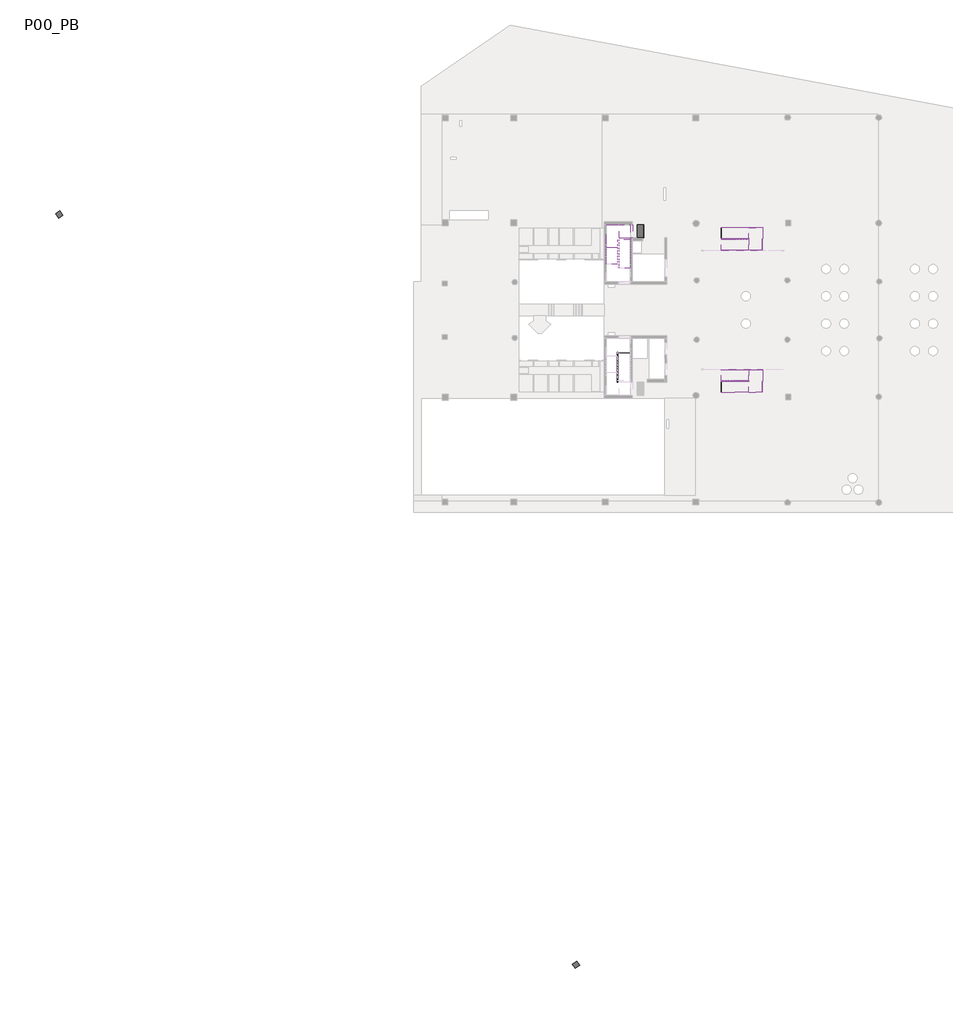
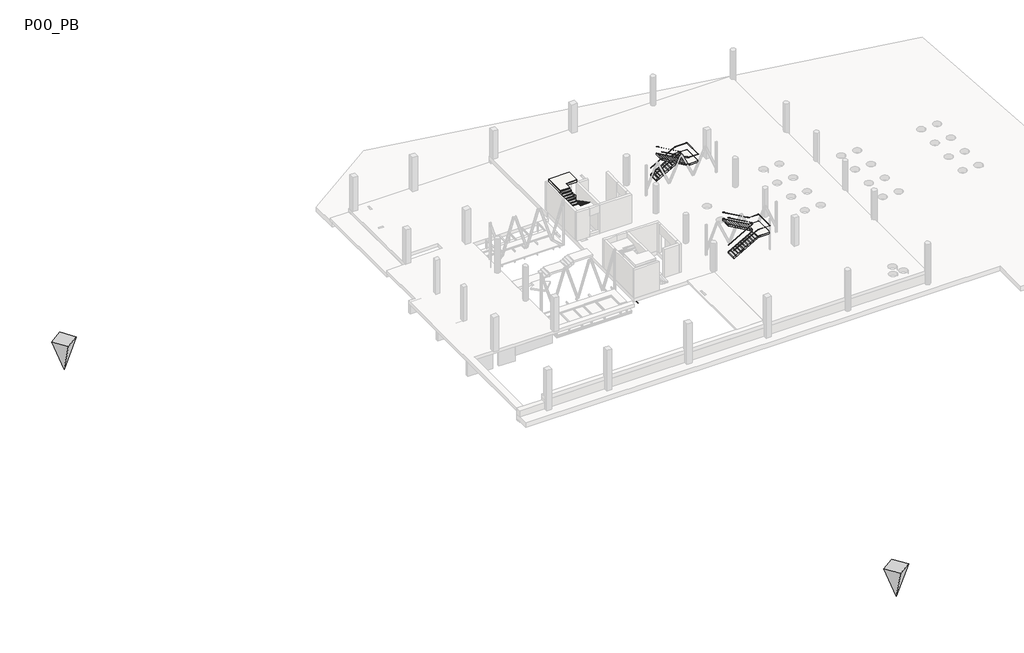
# One storey, part 7 of 7: 16 members, 7 stair flights, 5 railings, 4 slabs, 2 proxies.
"""IFC4 building model written with IfcOpenShell, lengths in millimetres."""

from ifc_helpers import new_model, si_unit, frame, origin, place, context, project, spatial, polyline, outline, extrude, faceted_brep, transform, mapped, element, save
from components import pr1_8635f188, railing_900mm_pipe_top_rail_20590dda, railing_900mm_pipe_top_rail_d99c33f4, railing_900mm_pipe_top_rail_784b6d44, railing_900mm_pipe_top_rail_96baf40c, railing_900mm_pipe_top_rail_08d98103, slab_d3fe248f, slab_97ac4ff6, metal_steps_w_10mm_tread_10mm_nosing_b8507e4e, metal_steps_w_10mm_tread_10mm_nosing_b2a2cf57, metal_steps_w_10mm_tread_10mm_nosing_9669a153, metal_steps_w_10mm_tread_10mm_nosing_cab76adb

model = new_model("IFC4")

# Units and contexts
model_context = context("Model", 3, world=origin())
ifc_project = project(units=[si_unit("LENGTHUNIT", "METRE", prefix="MILLI")], contexts=[model_context])

# Site, building, storey
site = spatial("IfcSite", under=ifc_project)
building = spatial("IfcBuilding", under=site)
storey = spatial("IfcBuildingStorey", under=building, Name="P00_PB", Elevation=6330.0)

# Proxies
placement = place(None, origin())
pr1_shape = pr1_8635f188(model_context)
element("IfcBuildingElementProxy", 1, Name="Punt_de_Referència : PR1", ObjectType="Punt_de_Referència : PR1", at=placement, inside=storey, context=model_context, shape_type="MappedRepresentation", body=[
    mapped(pr1_shape, transform((-16739.6780393, -67377.9131413, 6380.0), x_axis=(0.567142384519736, -0.8236197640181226, 0.0), y_axis=(0.8236197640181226, 0.567142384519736, 0.0), z_axis=(0.0, 0.0, 1.0))),
])
element("IfcBuildingElementProxy", 2, Name="Punt_de_Referència : PR2", ObjectType="Punt_de_Referència : PR2", at=placement, inside=storey, context=model_context, shape_type="MappedRepresentation", body=[
    mapped(pr1_shape, transform((-73453.9164913, 14984.0632605, 6380.0), x_axis=(0.5671423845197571, -0.8236197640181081, 0.0), y_axis=(0.8236197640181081, 0.5671423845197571, 0.0), z_axis=(0.0, 0.0, 1.0))),
])

# Members
element("IfcMember", 3, ObjectType="Stringer-Paint-10mm_Width-200mm_Height", at=placement, inside=storey, context=model_context, shape_type="SweptSolid", body=[
    extrude(outline(polyline([(7695.593333, -801.4958562), (7510.0, -801.4958562), (7510.0, -723.2895325), (9164.4282252, 2188.5041438), (9385.0, 2188.5041438), (9385.0, 2171.8598778), (7695.593333, -801.4958562)])), frame((0.0, -3354.3473686, 0.0), z_axis=(0.0, 1.0, 0.0), x_axis=(0.0, 0.0, 1.0)), (0.0, 0.0, 1.0), 10.0),
])
element("IfcMember", 4, ObjectType="Stringer-Paint-10mm_Width-200mm_Height", at=placement, inside=storey, context=model_context, shape_type="SweptSolid", body=[
    extrude(outline(polyline([(7695.593333, -801.4958562), (7510.0, -801.4958562), (7510.0, -723.2895325), (9185.0, 2224.7104675), (9385.0, 2171.8598778), (7695.593333, -801.4958562)])), frame((0.0, -4554.3473686, 0.0), z_axis=(0.0, 1.0, 0.0), x_axis=(0.0, 0.0, 1.0)), (0.0, 0.0, 1.0), 10.0),
])
element("IfcMember", 5, ObjectType="Stringer-Paint-10mm_Width-200mm_Height", at=placement, inside=storey, context=model_context, shape_type="SweptSolid", body=[
    extrude(outline(polyline([(9340.5645888, 2198.5041438), (9570.593333, 2198.5041438), (11275.1387875, -801.4958562), (11045.1100433, -801.4958562), (9340.5645888, 2198.5041438)])), frame((0.0, -3284.8316761, 0.0), z_axis=(0.0, 1.0, 0.0), x_axis=(0.0, 0.0, 1.0)), (0.0, 0.0, 1.0), 10.0),
])
element("IfcMember", 6, ObjectType="Stringer-Paint-10mm_Width-200mm_Height", at=placement, inside=storey, context=model_context, shape_type="SweptSolid", body=[
    extrude(outline(polyline([(9185.0, 2472.2978201), (9385.0, 2525.1484098), (11275.1387875, -801.4958562), (11045.1100433, -801.4958562), (9185.0, 2472.2978201)])), frame((0.0, -2084.8316761, 0.0), z_axis=(0.0, 1.0, 0.0), x_axis=(0.0, 0.0, 1.0)), (0.0, 0.0, 1.0), 10.0),
])
element("IfcMember", 7, ObjectType="Stringer-Paint-10mm_Width-200mm_Height", at=placement, inside=storey, context=model_context, shape_type="SweptSolid", body=[
    extrude(outline(polyline([(2188.5041438, -3284.8316761), (2198.5041438, -3284.8316761), (2198.5041438, -3354.3473686), (2188.5041438, -3354.3473686), (2188.5041438, -3284.8316761)])), frame((0.0, 0.0, 9185.0), z_axis=(0.0, 0.0, 1.0), x_axis=(1.0, 0.0, 0.0)), (0.0, 0.0, 1.0), 200.0),
])
element("IfcMember", 8, ObjectType="Stringer-Paint-10mm_Width-200mm_Height", at=placement, inside=storey, context=model_context, shape_type="Brep", body=[
    faceted_brep([(2171.8598778, -4544.3473686, 9385.0), (2171.8598778, -4554.3473686, 9385.0), (3758.5041438, -4554.3473686, 9385.0), (3748.5041438, -4544.3473686, 9385.0), (2224.7104675, -4544.3473686, 9185.0), (3748.5041438, -4544.3473686, 9185.0), (2224.7104675, -4554.3473686, 9185.0), (3758.5041438, -4554.3473686, 9185.0)], [[[0, 1, 2, 3]], [[4, 0, 3, 5]], [[6, 4, 5, 7]], [[1, 6, 7, 2]], [[1, 0, 4, 6]], [[2, 7, 5, 3]]]),
])
element("IfcMember", 9, ObjectType="Stringer-Paint-10mm_Width-200mm_Height", at=placement, inside=storey, context=model_context, shape_type="SweptSolid", body=[
    extrude(outline(polyline([(3758.5041438, -4554.3473686), (3748.5041438, -4544.3473686), (3748.5041438, -2084.8316761), (3758.5041438, -2074.8316761), (3758.5041438, -4554.3473686)])), frame((0.0, 0.0, 9185.0), z_axis=(0.0, 0.0, 1.0), x_axis=(1.0, 0.0, 0.0)), (0.0, 0.0, 1.0), 200.0),
])
element("IfcMember", 10, ObjectType="Stringer-Paint-10mm_Width-200mm_Height", at=placement, inside=storey, context=model_context, shape_type="Brep", body=[
    faceted_brep([(3748.5041438, -2084.8316761, 9385.0), (3758.5041438, -2074.8316761, 9385.0), (2525.1484098, -2074.8316761, 9385.0), (2525.1484098, -2084.8316761, 9385.0), (3748.5041438, -2084.8316761, 9185.0), (2472.2978201, -2084.8316761, 9185.0), (3758.5041438, -2074.8316761, 9185.0), (2472.2978201, -2074.8316761, 9185.0)], [[[0, 1, 2, 3]], [[4, 0, 3, 5]], [[6, 4, 5, 7]], [[1, 6, 7, 2]], [[1, 0, 4, 6]], [[2, 7, 5, 3]]]),
])
element("IfcMember", 11, ObjectType="Stringer-Paint-10mm_Width-200mm_Height", at=placement, inside=storey, context=model_context, shape_type="SweptSolid", body=[
    extrude(outline(polyline([(7695.593333, -801.4958562), (7510.0, -801.4958562), (7510.0, -723.2895325), (9164.4282252, 2188.5041438), (9385.0, 2188.5041438), (9385.0, 2171.8598778), (7695.593333, -801.4958562)])), frame((0.0, 12324.1395051, 0.0), z_axis=(0.0, 1.0, 0.0), x_axis=(0.0, 0.0, 1.0)), (0.0, 0.0, 1.0), 10.0),
])
element("IfcMember", 12, ObjectType="Stringer-Paint-10mm_Width-200mm_Height", at=placement, inside=storey, context=model_context, shape_type="SweptSolid", body=[
    extrude(outline(polyline([(7695.593333, -801.4958562), (7510.0, -801.4958562), (7510.0, -723.2895325), (9185.0, 2224.7104675), (9385.0, 2171.8598778), (7695.593333, -801.4958562)])), frame((0.0, 13524.1395051, 0.0), z_axis=(0.0, 1.0, 0.0), x_axis=(0.0, 0.0, 1.0)), (0.0, 0.0, 1.0), 10.0),
])
element("IfcMember", 13, ObjectType="Stringer-Paint-10mm_Width-200mm_Height", at=placement, inside=storey, context=model_context, shape_type="SweptSolid", body=[
    extrude(outline(polyline([(9340.5645888, 2198.5041438), (9570.593333, 2198.5041438), (11275.1387875, -801.4958562), (11045.1100433, -801.4958562), (9340.5645888, 2198.5041438)])), frame((0.0, 12254.6238126, 0.0), z_axis=(0.0, 1.0, 0.0), x_axis=(0.0, 0.0, 1.0)), (0.0, 0.0, 1.0), 10.0),
])
element("IfcMember", 14, ObjectType="Stringer-Paint-10mm_Width-200mm_Height", at=placement, inside=storey, context=model_context, shape_type="SweptSolid", body=[
    extrude(outline(polyline([(9185.0, 2472.2978201), (9385.0, 2525.1484098), (11275.1387875, -801.4958562), (11045.1100433, -801.4958562), (9185.0, 2472.2978201)])), frame((0.0, 11054.6238126, 0.0), z_axis=(0.0, 1.0, 0.0), x_axis=(0.0, 0.0, 1.0)), (0.0, 0.0, 1.0), 10.0),
])
element("IfcMember", 15, ObjectType="Stringer-Paint-10mm_Width-200mm_Height", at=placement, inside=storey, context=model_context, shape_type="SweptSolid", body=[
    extrude(outline(polyline([(2188.5041438, 12334.1395051), (2198.5041438, 12334.1395051), (2198.5041438, 12264.6238126), (2188.5041438, 12264.6238126), (2188.5041438, 12334.1395051)])), frame((0.0, 0.0, 9185.0), z_axis=(0.0, 0.0, 1.0), x_axis=(1.0, 0.0, 0.0)), (0.0, 0.0, 1.0), 200.0),
])
element("IfcMember", 16, ObjectType="Stringer-Paint-10mm_Width-200mm_Height", at=placement, inside=storey, context=model_context, shape_type="Brep", body=[
    faceted_brep([(3748.5041438, 13524.1395051, 9385.0), (3758.5041438, 13534.1395051, 9385.0), (2171.8598778, 13534.1395051, 9385.0), (2171.8598778, 13524.1395051, 9385.0), (3748.5041438, 13524.1395051, 9185.0), (2224.7104675, 13524.1395051, 9185.0), (3758.5041438, 13534.1395051, 9185.0), (2224.7104675, 13534.1395051, 9185.0)], [[[0, 1, 2, 3]], [[4, 0, 3, 5]], [[6, 4, 5, 7]], [[1, 6, 7, 2]], [[1, 0, 4, 6]], [[2, 7, 5, 3]]]),
])
element("IfcMember", 17, ObjectType="Stringer-Paint-10mm_Width-200mm_Height", at=placement, inside=storey, context=model_context, shape_type="SweptSolid", body=[
    extrude(outline(polyline([(3758.5041438, 11054.6238126), (3748.5041438, 11064.6238126), (3748.5041438, 13524.1395051), (3758.5041438, 13534.1395051), (3758.5041438, 11054.6238126)])), frame((0.0, 0.0, 9185.0), z_axis=(0.0, 0.0, 1.0), x_axis=(1.0, 0.0, 0.0)), (0.0, 0.0, 1.0), 200.0),
])
element("IfcMember", 18, ObjectType="Stringer-Paint-10mm_Width-200mm_Height", at=placement, inside=storey, context=model_context, shape_type="Brep", body=[
    faceted_brep([(2525.1484098, 11064.6238126, 9385.0), (2525.1484098, 11054.6238126, 9385.0), (3758.5041438, 11054.6238126, 9385.0), (3748.5041438, 11064.6238126, 9385.0), (2472.2978201, 11064.6238126, 9185.0), (3748.5041438, 11064.6238126, 9185.0), (2472.2978201, 11054.6238126, 9185.0), (3758.5041438, 11054.6238126, 9185.0)], [[[0, 1, 2, 3]], [[4, 0, 3, 5]], [[6, 4, 5, 7]], [[1, 6, 7, 2]], [[1, 0, 4, 6]], [[2, 7, 5, 3]]]),
])

# Railings
railing_900mm_pipe_top_rail_shape = railing_900mm_pipe_top_rail_20590dda(model_context)
element("IfcRailing", 19, ObjectType="900mm_Pipe_Top Rail", at=placement, inside=storey, context=model_context, shape_type="MappedRepresentation", body=[
    mapped(railing_900mm_pipe_top_rail_shape, transform((0.0, 0.0, 0.0), x_axis=(1.0, 0.0, 0.0), y_axis=(0.0, 1.0, 0.0), z_axis=(0.0, 0.0, 1.0))),
])
railing_900mm_pipe_top_rail_2_shape = railing_900mm_pipe_top_rail_d99c33f4(model_context)
element("IfcRailing", 20, ObjectType="900mm_Pipe_Top Rail", at=placement, inside=storey, context=model_context, shape_type="MappedRepresentation", body=[
    mapped(railing_900mm_pipe_top_rail_2_shape, transform((0.0, 0.0, 0.0), x_axis=(1.0, 0.0, 0.0), y_axis=(0.0, 1.0, 0.0), z_axis=(0.0, 0.0, 1.0))),
])
railing_900mm_pipe_top_rail_3_shape = railing_900mm_pipe_top_rail_784b6d44(model_context)
element("IfcRailing", 21, ObjectType="900mm_Pipe_Top Rail", at=placement, inside=storey, context=model_context, shape_type="MappedRepresentation", body=[
    mapped(railing_900mm_pipe_top_rail_3_shape, transform((0.0, 0.0, 0.0), x_axis=(1.0, 0.0, 0.0), y_axis=(0.0, 1.0, 0.0), z_axis=(0.0, 0.0, 1.0))),
])
railing_900mm_pipe_top_rail_4_shape = railing_900mm_pipe_top_rail_96baf40c(model_context)
element("IfcRailing", 22, ObjectType="900mm_Pipe_Top Rail", at=placement, inside=storey, context=model_context, shape_type="MappedRepresentation", body=[
    mapped(railing_900mm_pipe_top_rail_4_shape, transform((0.0, 0.0, 0.0), x_axis=(1.0, 0.0, 0.0), y_axis=(0.0, 1.0, 0.0), z_axis=(0.0, 0.0, 1.0))),
])
railing_900mm_pipe_top_rail_5_shape = railing_900mm_pipe_top_rail_08d98103(model_context)
element("IfcRailing", 23, ObjectType="900mm_Pipe_Top Rail", at=placement, inside=storey, context=model_context, shape_type="MappedRepresentation", body=[
    mapped(railing_900mm_pipe_top_rail_5_shape, transform((0.0, 0.0, 0.0), x_axis=(1.0, 0.0, 0.0), y_axis=(0.0, 1.0, 0.0), z_axis=(0.0, 0.0, 1.0))),
])

# Slabs
slab_shape = slab_d3fe248f(model_context)
element("IfcSlab", 24, ObjectType="Non-Monolitic_Landing", at=placement, inside=storey, context=model_context, shape_type="MappedRepresentation", body=[
    mapped(slab_shape, transform((0.0, 0.0, 0.0), x_axis=(1.0, 0.0, 0.0), y_axis=(0.0, 1.0, 0.0), z_axis=(0.0, 0.0, 1.0))),
])
slab_2_shape = slab_97ac4ff6(model_context)
element("IfcSlab", 25, ObjectType="Non-Monolitic_Landing", at=placement, inside=storey, context=model_context, shape_type="MappedRepresentation", body=[
    mapped(slab_2_shape, transform((0.0, 0.0, 0.0), x_axis=(1.0, 0.0, 0.0), y_axis=(0.0, 1.0, 0.0), z_axis=(0.0, 0.0, 1.0))),
])
element("IfcSlab", 26, ObjectType="250mm_Thickness", at=placement, inside=storey, context=model_context, shape_type="SolidModel", body=[
    faceted_brep([(-10540.7914923, 12414.8934136, 8241.25), (-10540.7914923, 13864.8960687, 8241.25), (-10901.9938574, 13864.8960687, 8241.25), (-11990.2146087, 13864.8960687, 8241.25), (-11990.2146087, 12414.8934136, 8241.25), (-11990.2146087, 12364.8934136, 8241.25), (-10790.2146087, 12364.8934136, 8241.25), (-10790.2146087, 12414.8934136, 8241.25), (-10540.7914923, 12414.8934136, 8085.0), (-10540.7914923, 12414.8934136, 7803.1237682), (-10540.7914923, 13864.8960687, 7803.1237682), (-10540.7914923, 13864.8960687, 8085.0), (-10901.9938574, 13864.8960687, 7991.25), (-11990.2146087, 13864.8960687, 7991.25), (-11990.2146087, 12414.8934136, 7991.25), (-11990.2146087, 12364.8934136, 7991.25), (-10790.2146087, 12364.8934136, 7991.25), (-10790.2146087, 12414.8934136, 7991.25), (-10901.9938574, 12414.8934136, 7991.25)], [[[0, 1, 2, 3, 4, 5, 6, 7]], [[1, 0, 8, 9, 10, 11]], [[1, 11, 10, 12, 13, 3, 2]], [[4, 3, 13, 14]], [[5, 4, 14, 15]], [[6, 5, 15, 16]], [[7, 6, 16, 17]], [[0, 7, 17, 18, 9, 8]], [[12, 18, 17, 16, 15, 14, 13]], [[9, 18, 12, 10]]]),
    extrude(outline(polyline([(-10490.7914923, 12414.8934136), (-10790.2146087, 12414.8934136), (-11990.2146087, 12414.8934136), (-11990.2146087, 13864.8960687), (-10490.7914923, 13864.8960687), (-10490.7914923, 12414.8934136)])), frame((0.0, 0.0, 8241.25), z_axis=(0.0, 0.0, 1.0), x_axis=(1.0, 0.0, 0.0)), (0.0, 0.0, 1.0), 50.0),
])
element("IfcSlab", 27, ObjectType="250mm_Thickness", at=placement, inside=storey, context=model_context, shape_type="SolidModel", body=[
    faceted_brep([(-13390.3216429, 11364.8960673, 11210.0), (-12190.3216429, 11364.8960673, 11210.0), (-12190.3216429, 11726.0984324, 11210.0), (-12190.3216429, 12214.8932827, 11210.0), (-10790.2146087, 12214.8932827, 11210.0), (-10790.2146087, 13864.8960687, 11210.0), (-13390.3216429, 13864.8960687, 11210.0), (-13390.3216429, 11726.0984324, 11210.0), (-12190.3216429, 11364.8960673, 11053.75), (-12190.3216429, 11364.8960673, 10771.8737682), (-12190.3216429, 11726.0984324, 10960.0), (-12190.3216429, 12214.8932827, 10960.0), (-10790.2146087, 12214.8932827, 10960.0), (-10790.2146087, 13864.8960687, 10960.0), (-13390.3216429, 13864.8960687, 10960.0), (-13390.3216429, 11364.8960673, 10771.8737682), (-13390.3216429, 11364.8960673, 11053.75), (-13390.3216429, 11726.0984324, 10960.0)], [[[0, 1, 2, 3, 4, 5, 6, 7]], [[1, 8, 9, 10, 11, 3, 2]], [[4, 3, 11, 12]], [[5, 4, 12, 13]], [[6, 5, 13, 14]], [[15, 16, 0, 7, 6, 14, 17]], [[10, 17, 14, 13, 12, 11]], [[1, 0, 16, 15, 9, 8]], [[17, 10, 9, 15]]]),
    extrude(outline(polyline([(-13390.3216429, 11314.8960673), (-13390.3216429, 13864.8960687), (-10790.2146087, 13864.8960687), (-10790.2146087, 12214.8932827), (-12190.3216429, 12214.8932827), (-12190.3216429, 11314.8960673), (-13390.3216429, 11314.8960673)])), frame((0.0, 0.0, 11210.0), z_axis=(0.0, 0.0, 1.0), x_axis=(1.0, 0.0, 0.0)), (0.0, 0.0, 1.0), 50.0),
])

# Stair flights
element("IfcStairFlight", 28, ObjectType="250mm Depth", at=placement, inside=storey, context=model_context, shape_type="SolidModel", body=[
    faceted_brep([(-9640.7914923, 12414.8934136, 7616.25), (-9340.7914923, 12414.8934136, 7616.25), (-9340.7914923, 13864.8960687, 7616.25), (-9640.7914923, 13864.8960687, 7616.25), (-9640.7914923, 12414.8934136, 7510.0), (-9340.7914923, 12414.8934136, 7510.0), (-9340.7914923, 13864.8960687, 7510.0), (-9640.7914923, 13864.8960687, 7510.0), (-9940.7914923, 12414.8934136, 7772.5), (-9640.7914923, 12414.8934136, 7772.5), (-9640.7914923, 13864.8960687, 7772.5), (-9940.7914923, 13864.8960687, 7772.5), (-9940.7914923, 12414.8934136, 7510.0), (-9940.7914923, 13864.8960687, 7510.0), (-10240.7914923, 12414.8934136, 7928.75), (-9940.7914923, 12414.8934136, 7928.75), (-9940.7914923, 13864.8960687, 7928.75), (-10240.7914923, 13864.8960687, 7928.75), (-10240.7914923, 12414.8934136, 7646.8737682), (-9977.9938574, 12414.8934136, 7510.0), (-9977.9938574, 13864.8960687, 7510.0), (-10240.7914923, 13864.8960687, 7646.8737682), (-10540.7914923, 12414.8934136, 8085.0), (-10240.7914923, 12414.8934136, 8085.0), (-10240.7914923, 13864.8960687, 8085.0), (-10490.7914923, 13864.8960687, 8085.0), (-10540.7914923, 13864.8960687, 8085.0), (-10540.7914923, 12414.8934136, 7803.1237682), (-10490.7914923, 13864.8960687, 7777.0821015), (-10540.7914923, 13864.8960687, 7803.1237682)], [[[0, 1, 2, 3]], [[1, 0, 4, 5]], [[2, 1, 5, 6]], [[3, 2, 6, 7]], [[8, 9, 10, 11]], [[4, 0, 9, 8, 12]], [[0, 3, 10, 9]], [[3, 7, 13, 11, 10]], [[14, 15, 16, 17]], [[12, 8, 15, 14, 18, 19]], [[8, 11, 16, 15]], [[11, 13, 20, 21, 17, 16]], [[22, 23, 24, 25, 26]], [[23, 22, 27, 18, 14]], [[14, 17, 24, 23]], [[24, 17, 21, 28, 29, 26, 25]], [[22, 26, 29, 27]], [[5, 4, 12, 19, 20, 13, 7, 6]], [[20, 19, 18, 27, 29, 28, 21]]]),
    extrude(outline(polyline([(-9340.7914923, 13864.8960687), (-9290.7914923, 13864.8960687), (-9290.7914923, 12414.8934136), (-9340.7914923, 12414.8934136), (-9340.7914923, 13864.8960687)])), frame((0.0, 0.0, 7510.0), z_axis=(0.0, 0.0, 1.0), x_axis=(1.0, 0.0, 0.0)), (0.0, 0.0, 1.0), 106.25),
    extrude(outline(polyline([(-9590.7914923, 12414.8934136), (-9590.7914923, 13864.8960687), (-9290.7914923, 13864.8960687), (-9290.7914923, 12414.8934136), (-9590.7914923, 12414.8934136)])), frame((0.0, 0.0, 7616.25), z_axis=(0.0, 0.0, 1.0), x_axis=(1.0, 0.0, 0.0)), (0.0, 0.0, 1.0), 50.0),
    extrude(outline(polyline([(-9640.7914923, 13864.8960687), (-9590.7914923, 13864.8960687), (-9590.7914923, 12414.8934136), (-9640.7914923, 12414.8934136), (-9640.7914923, 13864.8960687)])), frame((0.0, 0.0, 7616.25), z_axis=(0.0, 0.0, 1.0), x_axis=(1.0, 0.0, 0.0)), (0.0, 0.0, 1.0), 156.25),
    extrude(outline(polyline([(-9890.7914923, 12414.8934136), (-9890.7914923, 13864.8960687), (-9590.7914923, 13864.8960687), (-9590.7914923, 12414.8934136), (-9890.7914923, 12414.8934136)])), frame((0.0, 0.0, 7772.5), z_axis=(0.0, 0.0, 1.0), x_axis=(1.0, 0.0, 0.0)), (0.0, 0.0, 1.0), 50.0),
    extrude(outline(polyline([(-9940.7914923, 13864.8960687), (-9890.7914923, 13864.8960687), (-9890.7914923, 12414.8934136), (-9940.7914923, 12414.8934136), (-9940.7914923, 13864.8960687)])), frame((0.0, 0.0, 7772.5), z_axis=(0.0, 0.0, 1.0), x_axis=(1.0, 0.0, 0.0)), (0.0, 0.0, 1.0), 156.25),
    extrude(outline(polyline([(-10190.7914923, 12414.8934136), (-10190.7914923, 13864.8960687), (-9890.7914923, 13864.8960687), (-9890.7914923, 12414.8934136), (-10190.7914923, 12414.8934136)])), frame((0.0, 0.0, 7928.75), z_axis=(0.0, 0.0, 1.0), x_axis=(1.0, 0.0, 0.0)), (0.0, 0.0, 1.0), 50.0),
    extrude(outline(polyline([(-10240.7914923, 13864.8960687), (-10190.7914923, 13864.8960687), (-10190.7914923, 12414.8934136), (-10240.7914923, 12414.8934136), (-10240.7914923, 13864.8960687)])), frame((0.0, 0.0, 7928.75), z_axis=(0.0, 0.0, 1.0), x_axis=(1.0, 0.0, 0.0)), (0.0, 0.0, 1.0), 156.25),
    extrude(outline(polyline([(-10540.7914923, 13864.8960687), (-10490.7914923, 13864.8960687), (-10490.7914923, 12414.8934136), (-10540.7914923, 12414.8934136), (-10540.7914923, 13864.8960687)])), frame((0.0, 0.0, 8085.0), z_axis=(0.0, 0.0, 1.0), x_axis=(1.0, 0.0, 0.0)), (0.0, 0.0, 1.0), 156.25),
    extrude(outline(polyline([(-10490.7914923, 12414.8934136), (-10490.7914923, 13864.8960687), (-10190.7914923, 13864.8960687), (-10190.7914923, 12414.8934136), (-10490.7914923, 12414.8934136)])), frame((0.0, 0.0, 8085.0), z_axis=(0.0, 0.0, 1.0), x_axis=(1.0, 0.0, 0.0)), (0.0, 0.0, 1.0), 50.0),
])
element("IfcStairFlight", 29, ObjectType="250mm Depth", at=placement, inside=storey, context=model_context, shape_type="SolidModel", body=[
    faceted_brep([(-10790.2146087, 12364.8934136, 8397.5), (-11990.2146087, 12364.8934136, 8397.5), (-11990.2146087, 12303.6910485, 8397.5), (-11990.2146087, 12064.8934136, 8397.5), (-10790.2146087, 12064.8934136, 8397.5), (-10790.2146087, 12303.6910485, 8397.5), (-10790.2146087, 12064.8934136, 8115.6237682), (-10790.2146087, 12303.6910485, 7991.25), (-10790.2146087, 12364.8934136, 7991.25), (-10790.2146087, 12364.8934136, 8241.25), (-11990.2146087, 12364.8934136, 7991.25), (-11990.2146087, 12364.8934136, 8241.25), (-11990.2146087, 12303.6910485, 7991.25), (-11990.2146087, 12064.8934136, 8115.6237682), (-10790.2146087, 11764.8934136, 8553.75), (-10790.2146087, 12064.8934136, 8553.75), (-11990.2146087, 12064.8934136, 8553.75), (-11990.2146087, 11764.8934136, 8553.75), (-10790.2146087, 11764.8934136, 8271.8737682), (-11990.2146087, 11764.8934136, 8271.8737682), (-10790.2146087, 11464.8934136, 8710.0), (-10790.2146087, 11764.8934136, 8710.0), (-11990.2146087, 11764.8934136, 8710.0), (-11990.2146087, 11464.8934136, 8710.0), (-10790.2146087, 11464.8934136, 8428.1237682), (-11990.2146087, 11464.8934136, 8428.1237682), (-10790.2146087, 11164.8934136, 8866.25), (-10790.2146087, 11464.8934136, 8866.25), (-11990.2146087, 11464.8934136, 8866.25), (-11990.2146087, 11164.8934136, 8866.25), (-10790.2146087, 11164.8934136, 8584.3737682), (-11990.2146087, 11164.8934136, 8584.3737682), (-10790.2146087, 10864.8934136, 9022.5), (-10790.2146087, 11164.8934136, 9022.5), (-11990.2146087, 11164.8934136, 9022.5), (-11990.2146087, 10864.8934136, 9022.5), (-10790.2146087, 10864.8934136, 8740.6237682), (-11990.2146087, 10864.8934136, 8740.6237682), (-10790.2146087, 10564.8934136, 9178.75), (-10790.2146087, 10864.8934136, 9178.75), (-11990.2146087, 10864.8934136, 9178.75), (-11990.2146087, 10564.8934136, 9178.75), (-10790.2146087, 10564.8934136, 8896.8737682), (-11990.2146087, 10564.8934136, 8896.8737682), (-10790.2146087, 10264.8934136, 9335.0), (-10790.2146087, 10564.8934136, 9335.0), (-11990.2146087, 10564.8934136, 9335.0), (-11990.2146087, 10264.8934136, 9335.0), (-10790.2146087, 10264.8934136, 9053.1237682), (-11990.2146087, 10264.8934136, 9053.1237682), (-10790.2146087, 9964.8934136, 9491.25), (-10790.2146087, 10264.8934136, 9491.25), (-11990.2146087, 10264.8934136, 9491.25), (-11990.2146087, 9964.8934136, 9491.25), (-10790.2146087, 9964.8934136, 9209.3737682), (-11990.2146087, 9964.8934136, 9209.3737682), (-10790.2146087, 9664.8934136, 9647.5), (-10790.2146087, 9964.8934136, 9647.5), (-11990.2146087, 9964.8934136, 9647.5), (-11990.2146087, 9664.8934136, 9647.5), (-10790.2146087, 9664.8934136, 9365.6237682), (-11990.2146087, 9664.8934136, 9365.6237682), (-10790.2146087, 9364.8934136, 9803.75), (-10790.2146087, 9664.8934136, 9803.75), (-11990.2146087, 9664.8934136, 9803.75), (-11990.2146087, 9364.8934136, 9803.75), (-10790.2146087, 9364.8934136, 9521.8737682), (-11990.2146087, 9364.8934136, 9521.8737682), (-10790.2146087, 9364.8934136, 9960.0), (-11990.2146087, 9364.8934136, 9960.0), (-11990.2146087, 9114.8934136, 9960.0), (-11990.2146087, 9064.8934136, 9960.0), (-10790.2146087, 9064.8934136, 9960.0), (-10790.2146087, 9114.8934136, 9960.0), (-10790.2146087, 9064.8934136, 9678.1237682), (-10790.2146087, 9114.8934136, 9652.0821015), (-11990.2146087, 9064.8934136, 9678.1237682), (-11990.2146087, 9064.8934136, 9866.25)], [[[0, 1, 2, 3, 4, 5]], [[4, 6, 7, 8, 9, 0, 5]], [[1, 0, 9, 8, 10, 11]], [[1, 11, 10, 12, 13, 3, 2]], [[14, 15, 16, 17]], [[15, 14, 18, 6, 4]], [[16, 15, 4, 3]], [[17, 16, 3, 13, 19]], [[20, 21, 22, 23]], [[21, 20, 24, 18, 14]], [[22, 21, 14, 17]], [[23, 22, 17, 19, 25]], [[26, 27, 28, 29]], [[27, 26, 30, 24, 20]], [[28, 27, 20, 23]], [[29, 28, 23, 25, 31]], [[32, 33, 34, 35]], [[33, 32, 36, 30, 26]], [[34, 33, 26, 29]], [[35, 34, 29, 31, 37]], [[38, 39, 40, 41]], [[39, 38, 42, 36, 32]], [[40, 39, 32, 35]], [[41, 40, 35, 37, 43]], [[44, 45, 46, 47]], [[45, 44, 48, 42, 38]], [[46, 45, 38, 41]], [[47, 46, 41, 43, 49]], [[50, 51, 52, 53]], [[51, 50, 54, 48, 44]], [[52, 51, 44, 47]], [[53, 52, 47, 49, 55]], [[56, 57, 58, 59]], [[57, 56, 60, 54, 50]], [[58, 57, 50, 53]], [[59, 58, 53, 55, 61]], [[62, 63, 64, 65]], [[63, 62, 66, 60, 56]], [[64, 63, 56, 59]], [[65, 64, 59, 61, 67]], [[68, 69, 70, 71, 72, 73]], [[62, 68, 73, 72, 74, 75, 66]], [[69, 68, 62, 65]], [[69, 65, 67, 76, 77, 71, 70]], [[72, 71, 77, 76, 74]], [[12, 7, 6, 18, 24, 30, 36, 42, 48, 54, 60, 66, 75, 74, 76, 67, 61, 55, 49, 43, 37, 31, 25, 19, 13]], [[7, 12, 10, 8]]]),
    extrude(outline(polyline([(-11990.2146087, 12364.8934136), (-11990.2146087, 12414.8934136), (-10790.2146087, 12414.8934136), (-10790.2146087, 12364.8934136), (-11990.2146087, 12364.8934136)])), frame((0.0, 0.0, 8241.25), z_axis=(0.0, 0.0, 1.0), x_axis=(1.0, 0.0, 0.0)), (0.0, 0.0, 1.0), 156.25),
    extrude(outline(polyline([(-10790.2146087, 12114.8934136), (-11990.2146087, 12114.8934136), (-11990.2146087, 12414.8934136), (-10790.2146087, 12414.8934136), (-10790.2146087, 12114.8934136)])), frame((0.0, 0.0, 8397.5), z_axis=(0.0, 0.0, 1.0), x_axis=(1.0, 0.0, 0.0)), (0.0, 0.0, 1.0), 50.0),
    extrude(outline(polyline([(-11990.2146087, 12064.8934136), (-11990.2146087, 12114.8934136), (-10790.2146087, 12114.8934136), (-10790.2146087, 12064.8934136), (-11990.2146087, 12064.8934136)])), frame((0.0, 0.0, 8397.5), z_axis=(0.0, 0.0, 1.0), x_axis=(1.0, 0.0, 0.0)), (0.0, 0.0, 1.0), 156.25),
    extrude(outline(polyline([(-10790.2146087, 11814.8934136), (-11990.2146087, 11814.8934136), (-11990.2146087, 12114.8934136), (-10790.2146087, 12114.8934136), (-10790.2146087, 11814.8934136)])), frame((0.0, 0.0, 8553.75), z_axis=(0.0, 0.0, 1.0), x_axis=(1.0, 0.0, 0.0)), (0.0, 0.0, 1.0), 50.0),
    extrude(outline(polyline([(-11990.2146087, 11764.8934136), (-11990.2146087, 11814.8934136), (-10790.2146087, 11814.8934136), (-10790.2146087, 11764.8934136), (-11990.2146087, 11764.8934136)])), frame((0.0, 0.0, 8553.75), z_axis=(0.0, 0.0, 1.0), x_axis=(1.0, 0.0, 0.0)), (0.0, 0.0, 1.0), 156.25),
    extrude(outline(polyline([(-10790.2146087, 11514.8934136), (-11990.2146087, 11514.8934136), (-11990.2146087, 11814.8934136), (-10790.2146087, 11814.8934136), (-10790.2146087, 11514.8934136)])), frame((0.0, 0.0, 8710.0), z_axis=(0.0, 0.0, 1.0), x_axis=(1.0, 0.0, 0.0)), (0.0, 0.0, 1.0), 50.0),
    extrude(outline(polyline([(-11990.2146087, 11464.8934136), (-11990.2146087, 11514.8934136), (-10790.2146087, 11514.8934136), (-10790.2146087, 11464.8934136), (-11990.2146087, 11464.8934136)])), frame((0.0, 0.0, 8710.0), z_axis=(0.0, 0.0, 1.0), x_axis=(1.0, 0.0, 0.0)), (0.0, 0.0, 1.0), 156.25),
    extrude(outline(polyline([(-10790.2146087, 11214.8934136), (-11990.2146087, 11214.8934136), (-11990.2146087, 11514.8934136), (-10790.2146087, 11514.8934136), (-10790.2146087, 11214.8934136)])), frame((0.0, 0.0, 8866.25), z_axis=(0.0, 0.0, 1.0), x_axis=(1.0, 0.0, 0.0)), (0.0, 0.0, 1.0), 50.0),
    extrude(outline(polyline([(-11990.2146087, 11164.8934136), (-11990.2146087, 11214.8934136), (-10790.2146087, 11214.8934136), (-10790.2146087, 11164.8934136), (-11990.2146087, 11164.8934136)])), frame((0.0, 0.0, 8866.25), z_axis=(0.0, 0.0, 1.0), x_axis=(1.0, 0.0, 0.0)), (0.0, 0.0, 1.0), 156.25),
    extrude(outline(polyline([(-10790.2146087, 10914.8934136), (-11990.2146087, 10914.8934136), (-11990.2146087, 11214.8934136), (-10790.2146087, 11214.8934136), (-10790.2146087, 10914.8934136)])), frame((0.0, 0.0, 9022.5), z_axis=(0.0, 0.0, 1.0), x_axis=(1.0, 0.0, 0.0)), (0.0, 0.0, 1.0), 50.0),
    extrude(outline(polyline([(-11990.2146087, 10864.8934136), (-11990.2146087, 10914.8934136), (-10790.2146087, 10914.8934136), (-10790.2146087, 10864.8934136), (-11990.2146087, 10864.8934136)])), frame((0.0, 0.0, 9022.5), z_axis=(0.0, 0.0, 1.0), x_axis=(1.0, 0.0, 0.0)), (0.0, 0.0, 1.0), 156.25),
    extrude(outline(polyline([(-10790.2146087, 10614.8934136), (-11990.2146087, 10614.8934136), (-11990.2146087, 10914.8934136), (-10790.2146087, 10914.8934136), (-10790.2146087, 10614.8934136)])), frame((0.0, 0.0, 9178.75), z_axis=(0.0, 0.0, 1.0), x_axis=(1.0, 0.0, 0.0)), (0.0, 0.0, 1.0), 50.0),
    extrude(outline(polyline([(-11990.2146087, 10564.8934136), (-11990.2146087, 10614.8934136), (-10790.2146087, 10614.8934136), (-10790.2146087, 10564.8934136), (-11990.2146087, 10564.8934136)])), frame((0.0, 0.0, 9178.75), z_axis=(0.0, 0.0, 1.0), x_axis=(1.0, 0.0, 0.0)), (0.0, 0.0, 1.0), 156.25),
    extrude(outline(polyline([(-10790.2146087, 10314.8934136), (-11990.2146087, 10314.8934136), (-11990.2146087, 10614.8934136), (-10790.2146087, 10614.8934136), (-10790.2146087, 10314.8934136)])), frame((0.0, 0.0, 9335.0), z_axis=(0.0, 0.0, 1.0), x_axis=(1.0, 0.0, 0.0)), (0.0, 0.0, 1.0), 50.0),
    extrude(outline(polyline([(-11990.2146087, 10264.8934136), (-11990.2146087, 10314.8934136), (-10790.2146087, 10314.8934136), (-10790.2146087, 10264.8934136), (-11990.2146087, 10264.8934136)])), frame((0.0, 0.0, 9335.0), z_axis=(0.0, 0.0, 1.0), x_axis=(1.0, 0.0, 0.0)), (0.0, 0.0, 1.0), 156.25),
    extrude(outline(polyline([(-10790.2146087, 10014.8934136), (-11990.2146087, 10014.8934136), (-11990.2146087, 10314.8934136), (-10790.2146087, 10314.8934136), (-10790.2146087, 10014.8934136)])), frame((0.0, 0.0, 9491.25), z_axis=(0.0, 0.0, 1.0), x_axis=(1.0, 0.0, 0.0)), (0.0, 0.0, 1.0), 50.0),
    extrude(outline(polyline([(-11990.2146087, 9964.8934136), (-11990.2146087, 10014.8934136), (-10790.2146087, 10014.8934136), (-10790.2146087, 9964.8934136), (-11990.2146087, 9964.8934136)])), frame((0.0, 0.0, 9491.25), z_axis=(0.0, 0.0, 1.0), x_axis=(1.0, 0.0, 0.0)), (0.0, 0.0, 1.0), 156.25),
    extrude(outline(polyline([(-10790.2146087, 9714.8934136), (-11990.2146087, 9714.8934136), (-11990.2146087, 10014.8934136), (-10790.2146087, 10014.8934136), (-10790.2146087, 9714.8934136)])), frame((0.0, 0.0, 9647.5), z_axis=(0.0, 0.0, 1.0), x_axis=(1.0, 0.0, 0.0)), (0.0, 0.0, 1.0), 50.0),
    extrude(outline(polyline([(-11990.2146087, 9664.8934136), (-11990.2146087, 9714.8934136), (-10790.2146087, 9714.8934136), (-10790.2146087, 9664.8934136), (-11990.2146087, 9664.8934136)])), frame((0.0, 0.0, 9647.5), z_axis=(0.0, 0.0, 1.0), x_axis=(1.0, 0.0, 0.0)), (0.0, 0.0, 1.0), 156.25),
    extrude(outline(polyline([(-10790.2146087, 9414.8934136), (-11990.2146087, 9414.8934136), (-11990.2146087, 9714.8934136), (-10790.2146087, 9714.8934136), (-10790.2146087, 9414.8934136)])), frame((0.0, 0.0, 9803.75), z_axis=(0.0, 0.0, 1.0), x_axis=(1.0, 0.0, 0.0)), (0.0, 0.0, 1.0), 50.0),
    extrude(outline(polyline([(-11990.2146087, 9364.8934136), (-11990.2146087, 9414.8934136), (-10790.2146087, 9414.8934136), (-10790.2146087, 9364.8934136), (-11990.2146087, 9364.8934136)])), frame((0.0, 0.0, 9803.75), z_axis=(0.0, 0.0, 1.0), x_axis=(1.0, 0.0, 0.0)), (0.0, 0.0, 1.0), 156.25),
    extrude(outline(polyline([(-11990.2146087, 9064.8934136), (-11990.2146087, 9114.8934136), (-10790.2146087, 9114.8934136), (-10790.2146087, 9064.8934136), (-11990.2146087, 9064.8934136)])), frame((0.0, 0.0, 9960.0), z_axis=(0.0, 0.0, 1.0), x_axis=(1.0, 0.0, 0.0)), (0.0, 0.0, 1.0), 156.25),
    extrude(outline(polyline([(-10790.2146087, 9114.8934136), (-11990.2146087, 9114.8934136), (-11990.2146087, 9414.8934136), (-10790.2146087, 9414.8934136), (-10790.2146087, 9114.8934136)])), frame((0.0, 0.0, 9960.0), z_axis=(0.0, 0.0, 1.0), x_axis=(1.0, 0.0, 0.0)), (0.0, 0.0, 1.0), 50.0),
])
element("IfcStairFlight", 30, ObjectType="250mm Depth", at=placement, inside=storey, context=model_context, shape_type="SolidModel", body=[
    faceted_brep([(-13390.3216429, 9564.8960673, 10272.5), (-12190.3216429, 9564.8960673, 10272.5), (-12190.3216429, 9626.0984324, 10272.5), (-12190.3216429, 9864.8960673, 10272.5), (-13390.3216429, 9864.8960673, 10272.5), (-13390.3216429, 9626.0984324, 10272.5), (-13390.3216429, 9864.8960673, 9990.6237682), (-13390.3216429, 9626.0984324, 9866.25), (-13390.3216429, 9564.8960673, 9866.25), (-13390.3216429, 9564.8960673, 10116.25), (-12190.3216429, 9564.8960673, 9866.25), (-12190.3216429, 9564.8960673, 10116.25), (-12190.3216429, 9626.0984324, 9866.25), (-12190.3216429, 9864.8960673, 9990.6237682), (-13390.3216429, 10164.8960673, 10428.75), (-13390.3216429, 9864.8960673, 10428.75), (-12190.3216429, 9864.8960673, 10428.75), (-12190.3216429, 10164.8960673, 10428.75), (-13390.3216429, 10164.8960673, 10146.8737682), (-12190.3216429, 10164.8960673, 10146.8737682), (-13390.3216429, 10464.8960673, 10585.0), (-13390.3216429, 10164.8960673, 10585.0), (-12190.3216429, 10164.8960673, 10585.0), (-12190.3216429, 10464.8960673, 10585.0), (-13390.3216429, 10464.8960673, 10303.1237682), (-12190.3216429, 10464.8960673, 10303.1237682), (-13390.3216429, 10764.8960673, 10741.25), (-13390.3216429, 10464.8960673, 10741.25), (-12190.3216429, 10464.8960673, 10741.25), (-12190.3216429, 10764.8960673, 10741.25), (-13390.3216429, 10764.8960673, 10459.3737682), (-12190.3216429, 10764.8960673, 10459.3737682), (-13390.3216429, 11064.8960673, 10897.5), (-13390.3216429, 10764.8960673, 10897.5), (-12190.3216429, 10764.8960673, 10897.5), (-12190.3216429, 11064.8960673, 10897.5), (-13390.3216429, 11064.8960673, 10615.6237682), (-12190.3216429, 11064.8960673, 10615.6237682), (-13390.3216429, 11064.8960673, 11053.75), (-12190.3216429, 11064.8960673, 11053.75), (-12190.3216429, 11314.8960673, 11053.75), (-12190.3216429, 11364.8960673, 11053.75), (-13390.3216429, 11364.8960673, 11053.75), (-13390.3216429, 11314.8960673, 11053.75), (-13390.3216429, 11364.8960673, 10771.8737682), (-13390.3216429, 11314.8960673, 10745.8321015), (-12190.3216429, 11314.8960673, 10745.8321015), (-12190.3216429, 11364.8960673, 10771.8737682)], [[[0, 1, 2, 3, 4, 5]], [[4, 6, 7, 8, 9, 0, 5]], [[1, 0, 9, 8, 10, 11]], [[1, 11, 10, 12, 13, 3, 2]], [[14, 15, 16, 17]], [[15, 14, 18, 6, 4]], [[16, 15, 4, 3]], [[17, 16, 3, 13, 19]], [[20, 21, 22, 23]], [[21, 20, 24, 18, 14]], [[22, 21, 14, 17]], [[23, 22, 17, 19, 25]], [[26, 27, 28, 29]], [[27, 26, 30, 24, 20]], [[28, 27, 20, 23]], [[29, 28, 23, 25, 31]], [[32, 33, 34, 35]], [[33, 32, 36, 30, 26]], [[34, 33, 26, 29]], [[35, 34, 29, 31, 37]], [[38, 39, 40, 41, 42, 43]], [[32, 38, 43, 42, 44, 45, 36]], [[39, 38, 32, 35]], [[39, 35, 37, 46, 47, 41, 40]], [[42, 41, 47, 44]], [[12, 7, 6, 18, 24, 30, 36, 45, 44, 47, 46, 37, 31, 25, 19, 13]], [[7, 12, 10, 8]]]),
    extrude(outline(polyline([(-12190.3216429, 9564.8960673), (-12190.3216429, 9514.8960673), (-13390.3216429, 9514.8960673), (-13390.3216429, 9564.8960673), (-12190.3216429, 9564.8960673)])), frame((0.0, 0.0, 10116.25), z_axis=(0.0, 0.0, 1.0), x_axis=(1.0, 0.0, 0.0)), (0.0, 0.0, 1.0), 156.25),
    extrude(outline(polyline([(-13390.3216429, 9814.8960673), (-12190.3216429, 9814.8960673), (-12190.3216429, 9514.8960673), (-13390.3216429, 9514.8960673), (-13390.3216429, 9814.8960673)])), frame((0.0, 0.0, 10272.5), z_axis=(0.0, 0.0, 1.0), x_axis=(1.0, 0.0, 0.0)), (0.0, 0.0, 1.0), 50.0),
    extrude(outline(polyline([(-12190.3216429, 9864.8960673), (-12190.3216429, 9814.8960673), (-13390.3216429, 9814.8960673), (-13390.3216429, 9864.8960673), (-12190.3216429, 9864.8960673)])), frame((0.0, 0.0, 10272.5), z_axis=(0.0, 0.0, 1.0), x_axis=(1.0, 0.0, 0.0)), (0.0, 0.0, 1.0), 156.25),
    extrude(outline(polyline([(-13390.3216429, 10114.8960673), (-12190.3216429, 10114.8960673), (-12190.3216429, 9814.8960673), (-13390.3216429, 9814.8960673), (-13390.3216429, 10114.8960673)])), frame((0.0, 0.0, 10428.75), z_axis=(0.0, 0.0, 1.0), x_axis=(1.0, 0.0, 0.0)), (0.0, 0.0, 1.0), 50.0),
    extrude(outline(polyline([(-12190.3216429, 10164.8960673), (-12190.3216429, 10114.8960673), (-13390.3216429, 10114.8960673), (-13390.3216429, 10164.8960673), (-12190.3216429, 10164.8960673)])), frame((0.0, 0.0, 10428.75), z_axis=(0.0, 0.0, 1.0), x_axis=(1.0, 0.0, 0.0)), (0.0, 0.0, 1.0), 156.25),
    extrude(outline(polyline([(-13390.3216429, 10414.8960673), (-12190.3216429, 10414.8960673), (-12190.3216429, 10114.8960673), (-13390.3216429, 10114.8960673), (-13390.3216429, 10414.8960673)])), frame((0.0, 0.0, 10585.0), z_axis=(0.0, 0.0, 1.0), x_axis=(1.0, 0.0, 0.0)), (0.0, 0.0, 1.0), 50.0),
    extrude(outline(polyline([(-12190.3216429, 10464.8960673), (-12190.3216429, 10414.8960673), (-13390.3216429, 10414.8960673), (-13390.3216429, 10464.8960673), (-12190.3216429, 10464.8960673)])), frame((0.0, 0.0, 10585.0), z_axis=(0.0, 0.0, 1.0), x_axis=(1.0, 0.0, 0.0)), (0.0, 0.0, 1.0), 156.25),
    extrude(outline(polyline([(-13390.3216429, 10714.8960673), (-12190.3216429, 10714.8960673), (-12190.3216429, 10414.8960673), (-13390.3216429, 10414.8960673), (-13390.3216429, 10714.8960673)])), frame((0.0, 0.0, 10741.25), z_axis=(0.0, 0.0, 1.0), x_axis=(1.0, 0.0, 0.0)), (0.0, 0.0, 1.0), 50.0),
    extrude(outline(polyline([(-12190.3216429, 10764.8960673), (-12190.3216429, 10714.8960673), (-13390.3216429, 10714.8960673), (-13390.3216429, 10764.8960673), (-12190.3216429, 10764.8960673)])), frame((0.0, 0.0, 10741.25), z_axis=(0.0, 0.0, 1.0), x_axis=(1.0, 0.0, 0.0)), (0.0, 0.0, 1.0), 156.25),
    extrude(outline(polyline([(-13390.3216429, 11014.8960673), (-12190.3216429, 11014.8960673), (-12190.3216429, 10714.8960673), (-13390.3216429, 10714.8960673), (-13390.3216429, 11014.8960673)])), frame((0.0, 0.0, 10897.5), z_axis=(0.0, 0.0, 1.0), x_axis=(1.0, 0.0, 0.0)), (0.0, 0.0, 1.0), 50.0),
    extrude(outline(polyline([(-12190.3216429, 11064.8960673), (-12190.3216429, 11014.8960673), (-13390.3216429, 11014.8960673), (-13390.3216429, 11064.8960673), (-12190.3216429, 11064.8960673)])), frame((0.0, 0.0, 10897.5), z_axis=(0.0, 0.0, 1.0), x_axis=(1.0, 0.0, 0.0)), (0.0, 0.0, 1.0), 156.25),
    extrude(outline(polyline([(-12190.3216429, 11364.8960673), (-12190.3216429, 11314.8960673), (-13390.3216429, 11314.8960673), (-13390.3216429, 11364.8960673), (-12190.3216429, 11364.8960673)])), frame((0.0, 0.0, 11053.75), z_axis=(0.0, 0.0, 1.0), x_axis=(1.0, 0.0, 0.0)), (0.0, 0.0, 1.0), 156.25),
    extrude(outline(polyline([(-13390.3216429, 11314.8960673), (-12190.3216429, 11314.8960673), (-12190.3216429, 11014.8960673), (-13390.3216429, 11014.8960673), (-13390.3216429, 11314.8960673)])), frame((0.0, 0.0, 11053.75), z_axis=(0.0, 0.0, 1.0), x_axis=(1.0, 0.0, 0.0)), (0.0, 0.0, 1.0), 50.0),
])
metal_steps_w_10mm_tread_10mm_nosing_shape = metal_steps_w_10mm_tread_10mm_nosing_b8507e4e(model_context)
element("IfcStairFlight", 31, ObjectType="Metal_Steps_w-10mm_Tread-10mm_Nosing", at=placement, inside=storey, context=model_context, shape_type="MappedRepresentation", body=[
    mapped(metal_steps_w_10mm_tread_10mm_nosing_shape, transform((0.0, 0.0, 0.0), x_axis=(1.0, 0.0, 0.0), y_axis=(0.0, 1.0, 0.0), z_axis=(0.0, 0.0, 1.0))),
])
metal_steps_w_10mm_tread_10mm_nosing_2_shape = metal_steps_w_10mm_tread_10mm_nosing_b2a2cf57(model_context)
element("IfcStairFlight", 32, ObjectType="Metal_Steps_w-10mm_Tread-10mm_Nosing", at=placement, inside=storey, context=model_context, shape_type="MappedRepresentation", body=[
    mapped(metal_steps_w_10mm_tread_10mm_nosing_2_shape, transform((0.0, 0.0, 0.0), x_axis=(1.0, 0.0, 0.0), y_axis=(0.0, 1.0, 0.0), z_axis=(0.0, 0.0, 1.0))),
])
metal_steps_w_10mm_tread_10mm_nosing_3_shape = metal_steps_w_10mm_tread_10mm_nosing_9669a153(model_context)
element("IfcStairFlight", 33, ObjectType="Metal_Steps_w-10mm_Tread-10mm_Nosing", at=placement, inside=storey, context=model_context, shape_type="MappedRepresentation", body=[
    mapped(metal_steps_w_10mm_tread_10mm_nosing_3_shape, transform((0.0, 0.0, 0.0), x_axis=(1.0, 0.0, 0.0), y_axis=(0.0, 1.0, 0.0), z_axis=(0.0, 0.0, 1.0))),
])
metal_steps_w_10mm_tread_10mm_nosing_4_shape = metal_steps_w_10mm_tread_10mm_nosing_cab76adb(model_context)
element("IfcStairFlight", 34, ObjectType="Metal_Steps_w-10mm_Tread-10mm_Nosing", at=placement, inside=storey, context=model_context, shape_type="MappedRepresentation", body=[
    mapped(metal_steps_w_10mm_tread_10mm_nosing_4_shape, transform((0.0, 0.0, 0.0), x_axis=(1.0, 0.0, 0.0), y_axis=(0.0, 1.0, 0.0), z_axis=(0.0, 0.0, 1.0))),
])

save(model, "model.ifc")
